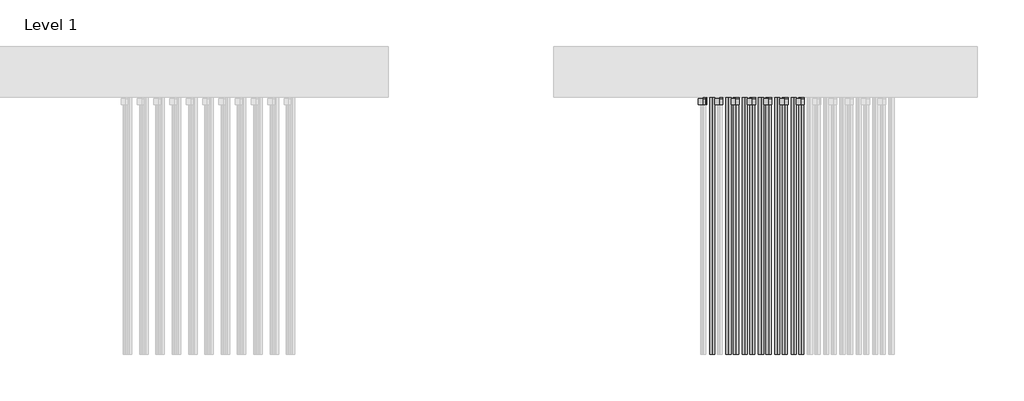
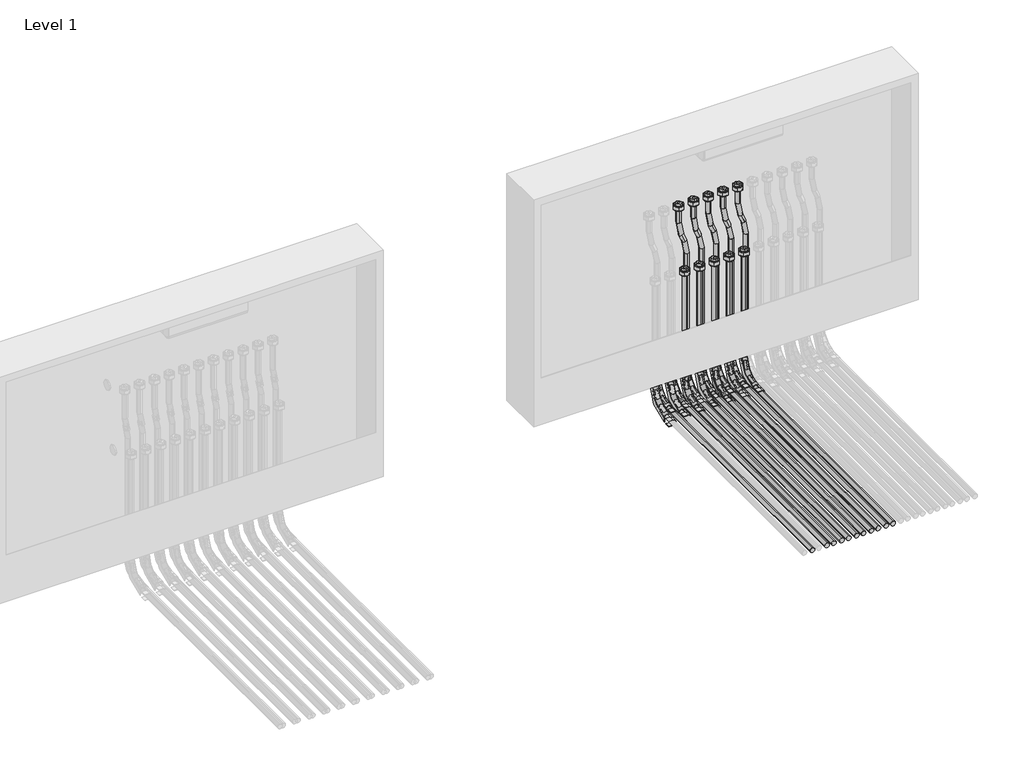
# One storey, part 14 of 15: 44 pipe fittings, 31 pipe segments.
"""IFC4 building model written with IfcOpenShell, lengths in millimetres."""

from ifc_helpers import new_model, si_unit, point, frame, frame_2d, origin, place, context, project, spatial, circle_curve, trimmed, segment, composite_curve, outline, extrude, transform, mapped, element, save
from components import pipe_fitting_b05a7e06, pipe_fitting_27357a6d, pipe_fitting_daada113, pipe_fitting_3e503640

model = new_model("IFC4")

# Units and contexts
model_context = context("Model", 3, world=origin())
ifc_project = project(units=[si_unit("LENGTHUNIT", "METRE", prefix="MILLI")], contexts=[model_context])

# Site, building, storey
site = spatial("IfcSite", under=ifc_project)
building = spatial("IfcBuilding", under=site)
storey = spatial("IfcBuildingStorey", under=building, Name="Level 1", Elevation=0.0)

# Pipe fittings
placement = place(None, origin())
pipe_fitting_shape = pipe_fitting_b05a7e06(model_context)
element("IfcPipeFitting", 1, ObjectType="USYSTEMS_УгловойФиксатор_Multi : Угловой фиксатор", at=placement, inside=storey, context=model_context, shape_type="MappedRepresentation", body=[
    mapped(pipe_fitting_shape, transform((16675.5332377, 3819.7850993, -114.3211479), x_axis=(0.0, 0.0, -1.0), y_axis=(0.0, -1.0, 0.0), z_axis=(-1.0, 0.0, 0.0))),
])
element("IfcPipeFitting", 2, ObjectType="USYSTEMS_УгловойФиксатор_Multi : Угловой фиксатор", at=placement, inside=storey, context=model_context, shape_type="MappedRepresentation", body=[
    mapped(pipe_fitting_shape, transform((16725.5332377, 3819.7850993, -114.3211479), x_axis=(0.0, 0.0, -1.0), y_axis=(0.0, -1.0, 0.0), z_axis=(-1.0, 0.0, 0.0))),
])
element("IfcPipeFitting", 3, ObjectType="USYSTEMS_УгловойФиксатор_Multi : Угловой фиксатор", at=placement, inside=storey, context=model_context, shape_type="MappedRepresentation", body=[
    mapped(pipe_fitting_shape, transform((16702.5432596, 3855.7846392, -114.3211479), x_axis=(0.0, 0.0, -1.0), y_axis=(0.0, -1.0, 0.0), z_axis=(-1.0, 0.0, 0.0))),
])
element("IfcPipeFitting", 4, ObjectType="USYSTEMS_УгловойФиксатор_Multi : Угловой фиксатор", at=placement, inside=storey, context=model_context, shape_type="MappedRepresentation", body=[
    mapped(pipe_fitting_shape, transform((16752.5432596, 3855.7846392, -114.3211479), x_axis=(0.0, 0.0, -1.0), y_axis=(0.0, -1.0, 0.0), z_axis=(-1.0, 0.0, 0.0))),
])
element("IfcPipeFitting", 5, ObjectType="USYSTEMS_УгловойФиксатор_Multi : Угловой фиксатор", at=placement, inside=storey, context=model_context, shape_type="MappedRepresentation", body=[
    mapped(pipe_fitting_shape, transform((16775.5332377, 3819.7850993, -114.3211479), x_axis=(0.0, 0.0, -1.0), y_axis=(0.0, -1.0, 0.0), z_axis=(-1.0, 0.0, 0.0))),
])
element("IfcPipeFitting", 6, ObjectType="USYSTEMS_УгловойФиксатор_Multi : Угловой фиксатор", at=placement, inside=storey, context=model_context, shape_type="MappedRepresentation", body=[
    mapped(pipe_fitting_shape, transform((16802.5432596, 3855.7849613, -114.3211479), x_axis=(0.0, 0.0, -1.0), y_axis=(0.0, -1.0, 0.0), z_axis=(-1.0, 0.0, 0.0))),
])
element("IfcPipeFitting", 7, ObjectType="USYSTEMS_УгловойФиксатор_Multi : Угловой фиксатор", at=placement, inside=storey, context=model_context, shape_type="MappedRepresentation", body=[
    mapped(pipe_fitting_shape, transform((16825.5332377, 3819.7850993, -114.3211479), x_axis=(0.0, 0.0, -1.0), y_axis=(0.0, -1.0, 0.0), z_axis=(-1.0, 0.0, 0.0))),
])
element("IfcPipeFitting", 8, ObjectType="USYSTEMS_УгловойФиксатор_Multi : Угловой фиксатор", at=placement, inside=storey, context=model_context, shape_type="MappedRepresentation", body=[
    mapped(pipe_fitting_shape, transform((16852.5432596, 3855.7849613, -114.3211479), x_axis=(0.0, 0.0, -1.0), y_axis=(0.0, -1.0, 0.0), z_axis=(-1.0, 0.0, 0.0))),
])
element("IfcPipeFitting", 9, ObjectType="USYSTEMS_УгловойФиксатор_Multi : Угловой фиксатор", at=placement, inside=storey, context=model_context, shape_type="MappedRepresentation", body=[
    mapped(pipe_fitting_shape, transform((16875.5332377, 3819.7850993, -114.3211479), x_axis=(0.0, 0.0, -1.0), y_axis=(0.0, -1.0, 0.0), z_axis=(-1.0, 0.0, 0.0))),
])
element("IfcPipeFitting", 10, ObjectType="USYSTEMS_УгловойФиксатор_Multi : Угловой фиксатор", at=placement, inside=storey, context=model_context, shape_type="MappedRepresentation", body=[
    mapped(pipe_fitting_shape, transform((16902.5432596, 3855.7846392, -114.3211479), x_axis=(0.0, 0.0, -1.0), y_axis=(0.0, -1.0, 0.0), z_axis=(-1.0, 0.0, 0.0))),
])
element("IfcPipeFitting", 11, ObjectType="USYSTEMS_УгловойФиксатор_Multi : Угловой фиксатор", at=placement, inside=storey, context=model_context, shape_type="MappedRepresentation", body=[
    mapped(pipe_fitting_shape, transform((16925.5332377, 3819.7850993, -114.3211479), x_axis=(0.0, 0.0, -1.0), y_axis=(0.0, -1.0, 0.0), z_axis=(-1.0, 0.0, 0.0))),
])
element("IfcPipeFitting", 12, ObjectType="USYSTEMS_УгловойФиксатор_Multi : Угловой фиксатор", at=placement, inside=storey, context=model_context, shape_type="MappedRepresentation", body=[
    mapped(pipe_fitting_shape, transform((16952.5432596, 3855.7849613, -114.3211479), x_axis=(0.0, 0.0, -1.0), y_axis=(0.0, -1.0, 0.0), z_axis=(-1.0, 0.0, 0.0))),
])
element("IfcPipeFitting", 13, ObjectType="USYSTEMS_УгловойФиксатор_Multi : Угловой фиксатор", at=placement, inside=storey, context=model_context, shape_type="MappedRepresentation", body=[
    mapped(pipe_fitting_shape, transform((16975.5332377, 3819.7850993, -114.3211479), x_axis=(0.0, 0.0, -1.0), y_axis=(0.0, -1.0, 0.0), z_axis=(-1.0, 0.0, 0.0))),
])
pipe_fitting_2_shape = pipe_fitting_27357a6d(model_context)
element("IfcPipeFitting", 14, ObjectType="USYSTEMS_Штуцер с внутренней резьбой_FlexX_PEX : 16x2,0 x 3/4\" ВР Евроконус", at=placement, inside=storey, context=model_context, shape_type="MappedRepresentation", body=[
    mapped(pipe_fitting_2_shape, transform((16775.5332377, 3819.7850993, 328.3084133), x_axis=(0.0, 0.0, 1.0), y_axis=(0.0, 1.0, 0.0), z_axis=(-1.0, 0.0, 0.0))),
])
element("IfcPipeFitting", 15, ObjectType="USYSTEMS_Штуцер с внутренней резьбой_FlexX_PEX : 16x2,0 x 3/4\" ВР Евроконус", at=placement, inside=storey, context=model_context, shape_type="MappedRepresentation", body=[
    mapped(pipe_fitting_2_shape, transform((16775.5332377, 3855.7850993, 538.3084133), x_axis=(0.0, 0.0, 1.0), y_axis=(0.0, 1.0, 0.0), z_axis=(-1.0, 0.0, 0.0))),
])
element("IfcPipeFitting", 16, ObjectType="USYSTEMS_Штуцер с внутренней резьбой_FlexX_PEX : 16x2,0 x 3/4\" ВР Евроконус", at=placement, inside=storey, context=model_context, shape_type="MappedRepresentation", body=[
    mapped(pipe_fitting_2_shape, transform((16825.5332377, 3819.7850993, 328.3084133), x_axis=(0.0, 0.0, 1.0), y_axis=(0.0, 1.0, 0.0), z_axis=(-1.0, 0.0, 0.0))),
])
element("IfcPipeFitting", 17, ObjectType="USYSTEMS_Штуцер с внутренней резьбой_FlexX_PEX : 16x2,0 x 3/4\" ВР Евроконус", at=placement, inside=storey, context=model_context, shape_type="MappedRepresentation", body=[
    mapped(pipe_fitting_2_shape, transform((16825.5332377, 3855.7850993, 538.3084133), x_axis=(0.0, 0.0, 1.0), y_axis=(0.0, 1.0, 0.0), z_axis=(-1.0, 0.0, 0.0))),
])
element("IfcPipeFitting", 18, ObjectType="USYSTEMS_Штуцер с внутренней резьбой_FlexX_PEX : 16x2,0 x 3/4\" ВР Евроконус", at=placement, inside=storey, context=model_context, shape_type="MappedRepresentation", body=[
    mapped(pipe_fitting_2_shape, transform((16875.5332377, 3819.7850993, 328.3084133), x_axis=(0.0, 0.0, 1.0), y_axis=(0.0, 1.0, 0.0), z_axis=(-1.0, 0.0, 0.0))),
])
element("IfcPipeFitting", 19, ObjectType="USYSTEMS_Штуцер с внутренней резьбой_FlexX_PEX : 16x2,0 x 3/4\" ВР Евроконус", at=placement, inside=storey, context=model_context, shape_type="MappedRepresentation", body=[
    mapped(pipe_fitting_2_shape, transform((16875.5332377, 3855.7850993, 538.3084133), x_axis=(0.0, 0.0, 1.0), y_axis=(0.0, 1.0, 0.0), z_axis=(-1.0, 0.0, 0.0))),
])
element("IfcPipeFitting", 20, ObjectType="USYSTEMS_Штуцер с внутренней резьбой_FlexX_PEX : 16x2,0 x 3/4\" ВР Евроконус", at=placement, inside=storey, context=model_context, shape_type="MappedRepresentation", body=[
    mapped(pipe_fitting_2_shape, transform((16925.5332377, 3819.7850993, 328.3084133), x_axis=(0.0, 0.0, 1.0), y_axis=(0.0, 1.0, 0.0), z_axis=(-1.0, 0.0, 0.0))),
])
element("IfcPipeFitting", 21, ObjectType="USYSTEMS_Штуцер с внутренней резьбой_FlexX_PEX : 16x2,0 x 3/4\" ВР Евроконус", at=placement, inside=storey, context=model_context, shape_type="MappedRepresentation", body=[
    mapped(pipe_fitting_2_shape, transform((16925.5332377, 3855.7850993, 538.3084133), x_axis=(0.0, 0.0, 1.0), y_axis=(0.0, 1.0, 0.0), z_axis=(-1.0, 0.0, 0.0))),
])
element("IfcPipeFitting", 22, ObjectType="USYSTEMS_Штуцер с внутренней резьбой_FlexX_PEX : 16x2,0 x 3/4\" ВР Евроконус", at=placement, inside=storey, context=model_context, shape_type="MappedRepresentation", body=[
    mapped(pipe_fitting_2_shape, transform((16975.5332377, 3819.7850993, 328.3084133), x_axis=(0.0, 0.0, 1.0), y_axis=(0.0, 1.0, 0.0), z_axis=(-1.0, 0.0, 0.0))),
])
element("IfcPipeFitting", 23, ObjectType="USYSTEMS_Штуцер с внутренней резьбой_FlexX_PEX : 16x2,0 x 3/4\" ВР Евроконус", at=placement, inside=storey, context=model_context, shape_type="MappedRepresentation", body=[
    mapped(pipe_fitting_2_shape, transform((16975.5332377, 3855.7850993, 538.3084133), x_axis=(0.0, 0.0, 1.0), y_axis=(0.0, 1.0, 0.0), z_axis=(-1.0, 0.0, 0.0))),
])
pipe_fitting_3_shape = pipe_fitting_daada113(model_context)
element("IfcPipeFitting", 24, ObjectType="USYSTEMS_Гнутая труба_Radi Pipe : PN 6 в бухтах", at=placement, inside=storey, context=model_context, shape_type="MappedRepresentation", body=[
    mapped(pipe_fitting_3_shape, transform((16775.5332377, 3855.7850993, 458.6280399), x_axis=(0.0, 0.0, -1.0), y_axis=(1.0, 0.0, 0.0), z_axis=(0.0, -1.0, 0.0))),
])
element("IfcPipeFitting", 25, ObjectType="USYSTEMS_Гнутая труба_Radi Pipe : PN 6 в бухтах", at=placement, inside=storey, context=model_context, shape_type="MappedRepresentation", body=[
    mapped(pipe_fitting_3_shape, transform((16802.5432596, 3855.7849613, 388.2645272), x_axis=(0.3583679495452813, 0.0, -0.9335804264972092), y_axis=(-0.9335804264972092, 0.0, -0.3583679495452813), z_axis=(0.0, 1.0, 0.0))),
])
element("IfcPipeFitting", 26, ObjectType="USYSTEMS_Гнутая труба_Radi Pipe : PN 6 в бухтах", at=placement, inside=storey, context=model_context, shape_type="MappedRepresentation", body=[
    mapped(pipe_fitting_3_shape, transform((16825.5332377, 3855.7850993, 458.6280399), x_axis=(0.0, 0.0, -1.0), y_axis=(1.0, 0.0, 0.0), z_axis=(0.0, -1.0, 0.0))),
])
element("IfcPipeFitting", 27, ObjectType="USYSTEMS_Гнутая труба_Radi Pipe : PN 6 в бухтах", at=placement, inside=storey, context=model_context, shape_type="MappedRepresentation", body=[
    mapped(pipe_fitting_3_shape, transform((16852.5432596, 3855.7849613, 388.2645272), x_axis=(0.3583679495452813, 0.0, -0.9335804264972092), y_axis=(-0.9335804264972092, 0.0, -0.3583679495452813), z_axis=(0.0, 1.0, 0.0))),
])
element("IfcPipeFitting", 28, ObjectType="USYSTEMS_Гнутая труба_Radi Pipe : PN 6 в бухтах", at=placement, inside=storey, context=model_context, shape_type="MappedRepresentation", body=[
    mapped(pipe_fitting_3_shape, transform((16875.5332377, 3855.7850993, 458.6280399), x_axis=(0.0, 0.0, -1.0), y_axis=(1.0, 0.0, 0.0), z_axis=(0.0, -1.0, 0.0))),
])
element("IfcPipeFitting", 29, ObjectType="USYSTEMS_Гнутая труба_Radi Pipe : PN 6 в бухтах", at=placement, inside=storey, context=model_context, shape_type="MappedRepresentation", body=[
    mapped(pipe_fitting_3_shape, transform((16902.5432596, 3855.7846392, 388.2645272), x_axis=(0.3583679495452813, 0.0, -0.9335804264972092), y_axis=(-0.9335804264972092, 0.0, -0.3583679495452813), z_axis=(0.0, 1.0, 0.0))),
])
element("IfcPipeFitting", 30, ObjectType="USYSTEMS_Гнутая труба_Radi Pipe : PN 6 в бухтах", at=placement, inside=storey, context=model_context, shape_type="MappedRepresentation", body=[
    mapped(pipe_fitting_3_shape, transform((16925.5332377, 3855.7850993, 458.6280399), x_axis=(0.0, 0.0, -1.0), y_axis=(1.0, 0.0, 0.0), z_axis=(0.0, -1.0, 0.0))),
])
element("IfcPipeFitting", 31, ObjectType="USYSTEMS_Гнутая труба_Radi Pipe : PN 6 в бухтах", at=placement, inside=storey, context=model_context, shape_type="MappedRepresentation", body=[
    mapped(pipe_fitting_3_shape, transform((16952.5432596, 3855.7849613, 388.2645272), x_axis=(0.3583679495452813, 0.0, -0.9335804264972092), y_axis=(-0.9335804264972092, 0.0, -0.3583679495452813), z_axis=(0.0, 1.0, 0.0))),
])
element("IfcPipeFitting", 32, ObjectType="USYSTEMS_Гнутая труба_Radi Pipe : PN 6 в бухтах", at=placement, inside=storey, context=model_context, shape_type="MappedRepresentation", body=[
    mapped(pipe_fitting_3_shape, transform((16975.5332377, 3855.7850993, 458.6280399), x_axis=(0.0, 0.0, -1.0), y_axis=(1.0, 0.0, 0.0), z_axis=(0.0, -1.0, 0.0))),
])
element("IfcPipeFitting", 33, ObjectType="USYSTEMS_Гнутая труба_Radi Pipe : PN 6 в бухтах", at=placement, inside=storey, context=model_context, shape_type="MappedRepresentation", body=[
    mapped(pipe_fitting_3_shape, transform((17002.5432596, 3855.7846392, 388.2645272), x_axis=(0.3583679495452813, 0.0, -0.9335804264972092), y_axis=(-0.9335804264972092, 0.0, -0.3583679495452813), z_axis=(0.0, 1.0, 0.0))),
])
pipe_fitting_4_shape = pipe_fitting_3e503640(model_context)
element("IfcPipeFitting", 34, ObjectType="USYSTEMS_Гнутая труба_Radi Pipe : PN 6 в бухтах_С фиксатором", at=placement, inside=storey, context=model_context, shape_type="MappedRepresentation", body=[
    mapped(pipe_fitting_4_shape, transform((16702.5432596, 3855.7846392, -114.3211479), x_axis=(0.0, 0.0, -1.0), y_axis=(0.0, -1.0, 0.0), z_axis=(-1.0, 0.0, 0.0))),
])
element("IfcPipeFitting", 35, ObjectType="USYSTEMS_Гнутая труба_Radi Pipe : PN 6 в бухтах_С фиксатором", at=placement, inside=storey, context=model_context, shape_type="MappedRepresentation", body=[
    mapped(pipe_fitting_4_shape, transform((16752.5432596, 3855.7846392, -114.3211479), x_axis=(0.0, 0.0, -1.0), y_axis=(0.0, -1.0, 0.0), z_axis=(-1.0, 0.0, 0.0))),
])
element("IfcPipeFitting", 36, ObjectType="USYSTEMS_Гнутая труба_Radi Pipe : PN 6 в бухтах_С фиксатором", at=placement, inside=storey, context=model_context, shape_type="MappedRepresentation", body=[
    mapped(pipe_fitting_4_shape, transform((16775.5332377, 3819.7850993, -114.3211479), x_axis=(0.0, 0.0, -1.0), y_axis=(0.0, -1.0, 0.0), z_axis=(-1.0, 0.0, 0.0))),
])
element("IfcPipeFitting", 37, ObjectType="USYSTEMS_Гнутая труба_Radi Pipe : PN 6 в бухтах_С фиксатором", at=placement, inside=storey, context=model_context, shape_type="MappedRepresentation", body=[
    mapped(pipe_fitting_4_shape, transform((16802.5432596, 3855.7849613, -114.3211479), x_axis=(0.0, 0.0, -1.0), y_axis=(0.0, -1.0, 0.0), z_axis=(-1.0, 0.0, 0.0))),
])
element("IfcPipeFitting", 38, ObjectType="USYSTEMS_Гнутая труба_Radi Pipe : PN 6 в бухтах_С фиксатором", at=placement, inside=storey, context=model_context, shape_type="MappedRepresentation", body=[
    mapped(pipe_fitting_4_shape, transform((16825.5332377, 3819.7850993, -114.3211479), x_axis=(0.0, 0.0, -1.0), y_axis=(0.0, -1.0, 0.0), z_axis=(-1.0, 0.0, 0.0))),
])
element("IfcPipeFitting", 39, ObjectType="USYSTEMS_Гнутая труба_Radi Pipe : PN 6 в бухтах_С фиксатором", at=placement, inside=storey, context=model_context, shape_type="MappedRepresentation", body=[
    mapped(pipe_fitting_4_shape, transform((16852.5432596, 3855.7849613, -114.3211479), x_axis=(0.0, 0.0, -1.0), y_axis=(0.0, -1.0, 0.0), z_axis=(-1.0, 0.0, 0.0))),
])
element("IfcPipeFitting", 40, ObjectType="USYSTEMS_Гнутая труба_Radi Pipe : PN 6 в бухтах_С фиксатором", at=placement, inside=storey, context=model_context, shape_type="MappedRepresentation", body=[
    mapped(pipe_fitting_4_shape, transform((16875.5332377, 3819.7850993, -114.3211479), x_axis=(0.0, 0.0, -1.0), y_axis=(0.0, -1.0, 0.0), z_axis=(-1.0, 0.0, 0.0))),
])
element("IfcPipeFitting", 41, ObjectType="USYSTEMS_Гнутая труба_Radi Pipe : PN 6 в бухтах_С фиксатором", at=placement, inside=storey, context=model_context, shape_type="MappedRepresentation", body=[
    mapped(pipe_fitting_4_shape, transform((16902.5432596, 3855.7846392, -114.3211479), x_axis=(0.0, 0.0, -1.0), y_axis=(0.0, -1.0, 0.0), z_axis=(-1.0, 0.0, 0.0))),
])
element("IfcPipeFitting", 42, ObjectType="USYSTEMS_Гнутая труба_Radi Pipe : PN 6 в бухтах_С фиксатором", at=placement, inside=storey, context=model_context, shape_type="MappedRepresentation", body=[
    mapped(pipe_fitting_4_shape, transform((16925.5332377, 3819.7850993, -114.3211479), x_axis=(0.0, 0.0, -1.0), y_axis=(0.0, -1.0, 0.0), z_axis=(-1.0, 0.0, 0.0))),
])
element("IfcPipeFitting", 43, ObjectType="USYSTEMS_Гнутая труба_Radi Pipe : PN 6 в бухтах_С фиксатором", at=placement, inside=storey, context=model_context, shape_type="MappedRepresentation", body=[
    mapped(pipe_fitting_4_shape, transform((16952.5432596, 3855.7849613, -114.3211479), x_axis=(0.0, 0.0, -1.0), y_axis=(0.0, -1.0, 0.0), z_axis=(-1.0, 0.0, 0.0))),
])
element("IfcPipeFitting", 44, ObjectType="USYSTEMS_Гнутая труба_Radi Pipe : PN 6 в бухтах_С фиксатором", at=placement, inside=storey, context=model_context, shape_type="MappedRepresentation", body=[
    mapped(pipe_fitting_4_shape, transform((16975.5332377, 3819.7850993, -114.3211479), x_axis=(0.0, 0.0, -1.0), y_axis=(0.0, -1.0, 0.0), z_axis=(-1.0, 0.0, 0.0))),
])

# Pipe segments
element("IfcPipeSegment", 45, ObjectType="USYSTEMS труба Radi Pipe белая PN6", at=placement, inside=storey, context=model_context, shape_type="SweptSolid", body=[
    extrude(outline(composite_curve([segment(trimmed(circle_curve(frame_2d((-114.3211479, 16702.5432596)), 8.0), [point((-114.3211479, 16694.5432596))], [point((-122.3211479, 16702.5432596))], False, "CARTESIAN"), True, "CONTINUOUS"), segment(trimmed(circle_curve(frame_2d((-114.3211479, 16702.5432596)), 8.0), [point((-122.3211479, 16702.5432596))], [point((-114.3211479, 16710.5432596))], False, "CARTESIAN"), True, "CONTINUOUS"), segment(trimmed(circle_curve(frame_2d((-114.3211479, 16702.5432596)), 8.0), [point((-114.3211479, 16710.5432596))], [point((-106.3211479, 16702.5432596))], False, "CARTESIAN"), True, "CONTINUOUS"), segment(trimmed(circle_curve(frame_2d((-114.3211479, 16702.5432596)), 8.0), [point((-106.3211479, 16702.5432596))], [point((-114.3211479, 16694.5432596))], False, "CARTESIAN"), True, "CONTINUOUS")], self_intersect=False)), frame((0.0, 2946.5844543, 0.0), z_axis=(0.0, 1.0, 0.0), x_axis=(0.0, 0.0, 1.0)), (0.0, 0.0, 1.0), 838.2001849),
])
element("IfcPipeSegment", 46, ObjectType="USYSTEMS труба Radi Pipe белая PN6", at=placement, inside=storey, context=model_context, shape_type="SweptSolid", body=[
    extrude(outline(composite_curve([segment(trimmed(circle_curve(frame_2d((-114.3211479, 16752.5432596)), 8.0), [point((-114.3211479, 16744.5432596))], [point((-122.3211479, 16752.5432596))], False, "CARTESIAN"), True, "CONTINUOUS"), segment(trimmed(circle_curve(frame_2d((-114.3211479, 16752.5432596)), 8.0), [point((-122.3211479, 16752.5432596))], [point((-114.3211479, 16760.5432596))], False, "CARTESIAN"), True, "CONTINUOUS"), segment(trimmed(circle_curve(frame_2d((-114.3211479, 16752.5432596)), 8.0), [point((-114.3211479, 16760.5432596))], [point((-106.3211479, 16752.5432596))], False, "CARTESIAN"), True, "CONTINUOUS"), segment(trimmed(circle_curve(frame_2d((-114.3211479, 16752.5432596)), 8.0), [point((-106.3211479, 16752.5432596))], [point((-114.3211479, 16744.5432596))], False, "CARTESIAN"), True, "CONTINUOUS")], self_intersect=False)), frame((0.0, 2946.5844543, 0.0), z_axis=(0.0, 1.0, 0.0), x_axis=(0.0, 0.0, 1.0)), (0.0, 0.0, 1.0), 838.2001849),
])
element("IfcPipeSegment", 47, ObjectType="USYSTEMS труба Radi Pipe белая PN6", at=placement, inside=storey, context=model_context, shape_type="SweptSolid", body=[
    extrude(outline(composite_curve([segment(trimmed(circle_curve(frame_2d((16775.5332377, 3819.7850993)), 8.0), [point((16783.5332377, 3819.7850993))], [point((16775.5332377, 3811.7850993))], False, "CARTESIAN"), True, "CONTINUOUS"), segment(trimmed(circle_curve(frame_2d((16775.5332377, 3819.7850993)), 8.0), [point((16775.5332377, 3811.7850993))], [point((16767.5332377, 3819.7850993))], False, "CARTESIAN"), True, "CONTINUOUS"), segment(trimmed(circle_curve(frame_2d((16775.5332377, 3819.7850993)), 8.0), [point((16767.5332377, 3819.7850993))], [point((16775.5332377, 3827.7850993))], False, "CARTESIAN"), True, "CONTINUOUS"), segment(trimmed(circle_curve(frame_2d((16775.5332377, 3819.7850993)), 8.0), [point((16775.5332377, 3827.7850993))], [point((16783.5332377, 3819.7850993))], False, "CARTESIAN"), True, "CONTINUOUS")], self_intersect=False)), frame((0.0, 0.0, -43.3211479), z_axis=(0.0, 0.0, 1.0), x_axis=(1.0, 0.0, 0.0)), (0.0, 0.0, 1.0), 370.6295612),
])
element("IfcPipeSegment", 48, ObjectType="USYSTEMS труба Radi Pipe белая PN6", at=placement, inside=storey, context=model_context, shape_type="SweptSolid", body=[
    extrude(outline(composite_curve([segment(trimmed(circle_curve(frame_2d((16775.5332377, 3855.7850993)), 8.0), [point((16783.5332377, 3855.7850993))], [point((16775.5332377, 3847.7850993))], False, "CARTESIAN"), True, "CONTINUOUS"), segment(trimmed(circle_curve(frame_2d((16775.5332377, 3855.7850993)), 8.0), [point((16775.5332377, 3847.7850993))], [point((16767.5332377, 3855.7850993))], False, "CARTESIAN"), True, "CONTINUOUS"), segment(trimmed(circle_curve(frame_2d((16775.5332377, 3855.7850993)), 8.0), [point((16767.5332377, 3855.7850993))], [point((16775.5332377, 3863.7850993))], False, "CARTESIAN"), True, "CONTINUOUS"), segment(trimmed(circle_curve(frame_2d((16775.5332377, 3855.7850993)), 8.0), [point((16775.5332377, 3863.7850993))], [point((16783.5332377, 3855.7850993))], False, "CARTESIAN"), True, "CONTINUOUS")], self_intersect=False)), frame((0.0, 0.0, 482.3514377), z_axis=(0.0, 0.0, 1.0), x_axis=(1.0, 0.0, 0.0)), (0.0, 0.0, 1.0), 54.9569756),
])
element("IfcPipeSegment", 49, ObjectType="USYSTEMS труба Radi Pipe белая PN6", at=placement, inside=storey, context=model_context, shape_type="SweptSolid", body=[
    extrude(outline(composite_curve([segment(trimmed(circle_curve(frame_2d((0.0, -8.0)), 8.0), [point((-0.0001182, -16.0))], [point((-8.0, -7.9998818))], False, "CARTESIAN"), True, "CONTINUOUS"), segment(trimmed(circle_curve(frame_2d((0.0, -8.0)), 8.0), [point((-8.0, -7.9998818))], [point((0.0001182, 0.0))], False, "CARTESIAN"), True, "CONTINUOUS"), segment(trimmed(circle_curve(frame_2d((0.0, -8.0)), 8.0), [point((0.0001182, 0.0))], [point((8.0, -8.0001183))], False, "CARTESIAN"), True, "CONTINUOUS"), segment(trimmed(circle_curve(frame_2d((0.0, -8.0)), 8.0), [point((8.0, -8.0001183))], [point((-0.0001182, -16.0))], False, "CARTESIAN"), True, "CONTINUOUS")], self_intersect=False)), frame((16794.0415542, 3863.7849613, 410.4121847), z_axis=(-0.35836794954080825, 4.943680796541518e-06, 0.9335804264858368), x_axis=(0.9335804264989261, 1.897701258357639e-06, 0.3583679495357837)), (0.0, 0.0, 1.0), 27.9227289),
])
element("IfcPipeSegment", 50, ObjectType="USYSTEMS труба Radi Pipe белая PN6", at=placement, inside=storey, context=model_context, shape_type="SweptSolid", body=[
    extrude(outline(composite_curve([segment(trimmed(circle_curve(frame_2d((16802.5432596, 3855.7849613)), 8.0), [point((16810.5432596, 3855.7849613))], [point((16802.5432596, 3847.7849613))], False, "CARTESIAN"), True, "CONTINUOUS"), segment(trimmed(circle_curve(frame_2d((16802.5432596, 3855.7849613)), 8.0), [point((16802.5432596, 3847.7849613))], [point((16794.5432596, 3855.7849613))], False, "CARTESIAN"), True, "CONTINUOUS"), segment(trimmed(circle_curve(frame_2d((16802.5432596, 3855.7849613)), 8.0), [point((16794.5432596, 3855.7849613))], [point((16802.5432596, 3863.7849613))], False, "CARTESIAN"), True, "CONTINUOUS"), segment(trimmed(circle_curve(frame_2d((16802.5432596, 3855.7849613)), 8.0), [point((16802.5432596, 3863.7849613))], [point((16810.5432596, 3855.7849613))], False, "CARTESIAN"), True, "CONTINUOUS")], self_intersect=False)), frame((0.0, 0.0, -43.3211479), z_axis=(0.0, 0.0, 1.0), x_axis=(1.0, 0.0, 0.0)), (0.0, 0.0, 1.0), 407.8622774),
])
element("IfcPipeSegment", 51, ObjectType="USYSTEMS труба Radi Pipe белая PN6", at=placement, inside=storey, context=model_context, shape_type="SweptSolid", body=[
    extrude(outline(composite_curve([segment(trimmed(circle_curve(frame_2d((-114.3211479, 16775.5332377)), 8.0), [point((-114.3211479, 16767.5332377))], [point((-122.3211479, 16775.5332377))], False, "CARTESIAN"), True, "CONTINUOUS"), segment(trimmed(circle_curve(frame_2d((-114.3211479, 16775.5332377)), 8.0), [point((-122.3211479, 16775.5332377))], [point((-114.3211479, 16783.5332377))], False, "CARTESIAN"), True, "CONTINUOUS"), segment(trimmed(circle_curve(frame_2d((-114.3211479, 16775.5332377)), 8.0), [point((-114.3211479, 16783.5332377))], [point((-106.3211479, 16775.5332377))], False, "CARTESIAN"), True, "CONTINUOUS"), segment(trimmed(circle_curve(frame_2d((-114.3211479, 16775.5332377)), 8.0), [point((-106.3211479, 16775.5332377))], [point((-114.3211479, 16767.5332377))], False, "CARTESIAN"), True, "CONTINUOUS")], self_intersect=False)), frame((0.0, 2946.5844543, 0.0), z_axis=(0.0, 1.0, 0.0), x_axis=(0.0, 0.0, 1.0)), (0.0, 0.0, 1.0), 802.200645),
])
element("IfcPipeSegment", 52, ObjectType="USYSTEMS труба Radi Pipe белая PN6", at=placement, inside=storey, context=model_context, shape_type="SweptSolid", body=[
    extrude(outline(composite_curve([segment(trimmed(circle_curve(frame_2d((-114.3211479, 16802.5432596)), 8.0), [point((-114.3211479, 16794.5432596))], [point((-122.3211479, 16802.5432596))], False, "CARTESIAN"), True, "CONTINUOUS"), segment(trimmed(circle_curve(frame_2d((-114.3211479, 16802.5432596)), 8.0), [point((-122.3211479, 16802.5432596))], [point((-114.3211479, 16810.5432596))], False, "CARTESIAN"), True, "CONTINUOUS"), segment(trimmed(circle_curve(frame_2d((-114.3211479, 16802.5432596)), 8.0), [point((-114.3211479, 16810.5432596))], [point((-106.3211479, 16802.5432596))], False, "CARTESIAN"), True, "CONTINUOUS"), segment(trimmed(circle_curve(frame_2d((-114.3211479, 16802.5432596)), 8.0), [point((-106.3211479, 16802.5432596))], [point((-114.3211479, 16794.5432596))], False, "CARTESIAN"), True, "CONTINUOUS")], self_intersect=False)), frame((0.0, 2946.5844543, 0.0), z_axis=(0.0, 1.0, 0.0), x_axis=(0.0, 0.0, 1.0)), (0.0, 0.0, 1.0), 838.200507),
])
element("IfcPipeSegment", 53, ObjectType="USYSTEMS труба Radi Pipe белая PN6", at=placement, inside=storey, context=model_context, shape_type="SweptSolid", body=[
    extrude(outline(composite_curve([segment(trimmed(circle_curve(frame_2d((16825.5332377, 3819.7850993)), 8.0), [point((16833.5332377, 3819.7850993))], [point((16825.5332377, 3811.7850993))], False, "CARTESIAN"), True, "CONTINUOUS"), segment(trimmed(circle_curve(frame_2d((16825.5332377, 3819.7850993)), 8.0), [point((16825.5332377, 3811.7850993))], [point((16817.5332377, 3819.7850993))], False, "CARTESIAN"), True, "CONTINUOUS"), segment(trimmed(circle_curve(frame_2d((16825.5332377, 3819.7850993)), 8.0), [point((16817.5332377, 3819.7850993))], [point((16825.5332377, 3827.7850993))], False, "CARTESIAN"), True, "CONTINUOUS"), segment(trimmed(circle_curve(frame_2d((16825.5332377, 3819.7850993)), 8.0), [point((16825.5332377, 3827.7850993))], [point((16833.5332377, 3819.7850993))], False, "CARTESIAN"), True, "CONTINUOUS")], self_intersect=False)), frame((0.0, 0.0, -43.3211479), z_axis=(0.0, 0.0, 1.0), x_axis=(1.0, 0.0, 0.0)), (0.0, 0.0, 1.0), 370.6295612),
])
element("IfcPipeSegment", 54, ObjectType="USYSTEMS труба Radi Pipe белая PN6", at=placement, inside=storey, context=model_context, shape_type="SweptSolid", body=[
    extrude(outline(composite_curve([segment(trimmed(circle_curve(frame_2d((16825.5332377, 3855.7850993)), 8.0), [point((16833.5332377, 3855.7850993))], [point((16825.5332377, 3847.7850993))], False, "CARTESIAN"), True, "CONTINUOUS"), segment(trimmed(circle_curve(frame_2d((16825.5332377, 3855.7850993)), 8.0), [point((16825.5332377, 3847.7850993))], [point((16817.5332377, 3855.7850993))], False, "CARTESIAN"), True, "CONTINUOUS"), segment(trimmed(circle_curve(frame_2d((16825.5332377, 3855.7850993)), 8.0), [point((16817.5332377, 3855.7850993))], [point((16825.5332377, 3863.7850993))], False, "CARTESIAN"), True, "CONTINUOUS"), segment(trimmed(circle_curve(frame_2d((16825.5332377, 3855.7850993)), 8.0), [point((16825.5332377, 3863.7850993))], [point((16833.5332377, 3855.7850993))], False, "CARTESIAN"), True, "CONTINUOUS")], self_intersect=False)), frame((0.0, 0.0, 482.3514377), z_axis=(0.0, 0.0, 1.0), x_axis=(1.0, 0.0, 0.0)), (0.0, 0.0, 1.0), 54.9569756),
])
element("IfcPipeSegment", 55, ObjectType="USYSTEMS труба Radi Pipe белая PN6", at=placement, inside=storey, context=model_context, shape_type="SweptSolid", body=[
    extrude(outline(composite_curve([segment(trimmed(circle_curve(frame_2d((0.0, -8.0)), 8.0), [point((-0.0001182, -16.0))], [point((-8.0, -7.9998818))], False, "CARTESIAN"), True, "CONTINUOUS"), segment(trimmed(circle_curve(frame_2d((0.0, -8.0)), 8.0), [point((-8.0, -7.9998818))], [point((0.0001182, 0.0))], False, "CARTESIAN"), True, "CONTINUOUS"), segment(trimmed(circle_curve(frame_2d((0.0, -8.0)), 8.0), [point((0.0001182, 0.0))], [point((8.0, -8.0001183))], False, "CARTESIAN"), True, "CONTINUOUS"), segment(trimmed(circle_curve(frame_2d((0.0, -8.0)), 8.0), [point((8.0, -8.0001183))], [point((-0.0001182, -16.0))], False, "CARTESIAN"), True, "CONTINUOUS")], self_intersect=False)), frame((16844.0415542, 3863.7849613, 410.4121847), z_axis=(-0.35836794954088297, 4.943680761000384e-06, 0.9335804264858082), x_axis=(0.9335804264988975, 1.897701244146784e-06, 0.35836794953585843)), (0.0, 0.0, 1.0), 27.9227289),
])
element("IfcPipeSegment", 56, ObjectType="USYSTEMS труба Radi Pipe белая PN6", at=placement, inside=storey, context=model_context, shape_type="SweptSolid", body=[
    extrude(outline(composite_curve([segment(trimmed(circle_curve(frame_2d((16852.5432596, 3855.7849613)), 8.0), [point((16860.5432596, 3855.7849613))], [point((16852.5432596, 3847.7849613))], False, "CARTESIAN"), True, "CONTINUOUS"), segment(trimmed(circle_curve(frame_2d((16852.5432596, 3855.7849613)), 8.0), [point((16852.5432596, 3847.7849613))], [point((16844.5432596, 3855.7849613))], False, "CARTESIAN"), True, "CONTINUOUS"), segment(trimmed(circle_curve(frame_2d((16852.5432596, 3855.7849613)), 8.0), [point((16844.5432596, 3855.7849613))], [point((16852.5432596, 3863.7849613))], False, "CARTESIAN"), True, "CONTINUOUS"), segment(trimmed(circle_curve(frame_2d((16852.5432596, 3855.7849613)), 8.0), [point((16852.5432596, 3863.7849613))], [point((16860.5432596, 3855.7849613))], False, "CARTESIAN"), True, "CONTINUOUS")], self_intersect=False)), frame((0.0, 0.0, -43.3211479), z_axis=(0.0, 0.0, 1.0), x_axis=(1.0, 0.0, 0.0)), (0.0, 0.0, 1.0), 407.8622774),
])
element("IfcPipeSegment", 57, ObjectType="USYSTEMS труба Radi Pipe белая PN6", at=placement, inside=storey, context=model_context, shape_type="SweptSolid", body=[
    extrude(outline(composite_curve([segment(trimmed(circle_curve(frame_2d((-114.3211479, 16825.5332377)), 8.0), [point((-114.3211479, 16817.5332377))], [point((-122.3211479, 16825.5332377))], False, "CARTESIAN"), True, "CONTINUOUS"), segment(trimmed(circle_curve(frame_2d((-114.3211479, 16825.5332377)), 8.0), [point((-122.3211479, 16825.5332377))], [point((-114.3211479, 16833.5332377))], False, "CARTESIAN"), True, "CONTINUOUS"), segment(trimmed(circle_curve(frame_2d((-114.3211479, 16825.5332377)), 8.0), [point((-114.3211479, 16833.5332377))], [point((-106.3211479, 16825.5332377))], False, "CARTESIAN"), True, "CONTINUOUS"), segment(trimmed(circle_curve(frame_2d((-114.3211479, 16825.5332377)), 8.0), [point((-106.3211479, 16825.5332377))], [point((-114.3211479, 16817.5332377))], False, "CARTESIAN"), True, "CONTINUOUS")], self_intersect=False)), frame((0.0, 2946.5844543, 0.0), z_axis=(0.0, 1.0, 0.0), x_axis=(0.0, 0.0, 1.0)), (0.0, 0.0, 1.0), 802.200645),
])
element("IfcPipeSegment", 58, ObjectType="USYSTEMS труба Radi Pipe белая PN6", at=placement, inside=storey, context=model_context, shape_type="SweptSolid", body=[
    extrude(outline(composite_curve([segment(trimmed(circle_curve(frame_2d((-114.3211479, 16852.5432596)), 8.0), [point((-114.3211479, 16844.5432596))], [point((-122.3211479, 16852.5432596))], False, "CARTESIAN"), True, "CONTINUOUS"), segment(trimmed(circle_curve(frame_2d((-114.3211479, 16852.5432596)), 8.0), [point((-122.3211479, 16852.5432596))], [point((-114.3211479, 16860.5432596))], False, "CARTESIAN"), True, "CONTINUOUS"), segment(trimmed(circle_curve(frame_2d((-114.3211479, 16852.5432596)), 8.0), [point((-114.3211479, 16860.5432596))], [point((-106.3211479, 16852.5432596))], False, "CARTESIAN"), True, "CONTINUOUS"), segment(trimmed(circle_curve(frame_2d((-114.3211479, 16852.5432596)), 8.0), [point((-106.3211479, 16852.5432596))], [point((-114.3211479, 16844.5432596))], False, "CARTESIAN"), True, "CONTINUOUS")], self_intersect=False)), frame((0.0, 2946.5844543, 0.0), z_axis=(0.0, 1.0, 0.0), x_axis=(0.0, 0.0, 1.0)), (0.0, 0.0, 1.0), 838.200507),
])
element("IfcPipeSegment", 59, ObjectType="USYSTEMS труба Radi Pipe белая PN6", at=placement, inside=storey, context=model_context, shape_type="SweptSolid", body=[
    extrude(outline(composite_curve([segment(trimmed(circle_curve(frame_2d((16875.5332377, 3819.7850993)), 8.0), [point((16883.5332377, 3819.7850993))], [point((16875.5332377, 3811.7850993))], False, "CARTESIAN"), True, "CONTINUOUS"), segment(trimmed(circle_curve(frame_2d((16875.5332377, 3819.7850993)), 8.0), [point((16875.5332377, 3811.7850993))], [point((16867.5332377, 3819.7850993))], False, "CARTESIAN"), True, "CONTINUOUS"), segment(trimmed(circle_curve(frame_2d((16875.5332377, 3819.7850993)), 8.0), [point((16867.5332377, 3819.7850993))], [point((16875.5332377, 3827.7850993))], False, "CARTESIAN"), True, "CONTINUOUS"), segment(trimmed(circle_curve(frame_2d((16875.5332377, 3819.7850993)), 8.0), [point((16875.5332377, 3827.7850993))], [point((16883.5332377, 3819.7850993))], False, "CARTESIAN"), True, "CONTINUOUS")], self_intersect=False)), frame((0.0, 0.0, -43.3211479), z_axis=(0.0, 0.0, 1.0), x_axis=(1.0, 0.0, 0.0)), (0.0, 0.0, 1.0), 370.6295612),
])
element("IfcPipeSegment", 60, ObjectType="USYSTEMS труба Radi Pipe белая PN6", at=placement, inside=storey, context=model_context, shape_type="SweptSolid", body=[
    extrude(outline(composite_curve([segment(trimmed(circle_curve(frame_2d((16875.5332377, 3855.7850993)), 8.0), [point((16883.5332377, 3855.7850993))], [point((16875.5332377, 3847.7850993))], False, "CARTESIAN"), True, "CONTINUOUS"), segment(trimmed(circle_curve(frame_2d((16875.5332377, 3855.7850993)), 8.0), [point((16875.5332377, 3847.7850993))], [point((16867.5332377, 3855.7850993))], False, "CARTESIAN"), True, "CONTINUOUS"), segment(trimmed(circle_curve(frame_2d((16875.5332377, 3855.7850993)), 8.0), [point((16867.5332377, 3855.7850993))], [point((16875.5332377, 3863.7850993))], False, "CARTESIAN"), True, "CONTINUOUS"), segment(trimmed(circle_curve(frame_2d((16875.5332377, 3855.7850993)), 8.0), [point((16875.5332377, 3863.7850993))], [point((16883.5332377, 3855.7850993))], False, "CARTESIAN"), True, "CONTINUOUS")], self_intersect=False)), frame((0.0, 0.0, 482.3514377), z_axis=(0.0, 0.0, 1.0), x_axis=(1.0, 0.0, 0.0)), (0.0, 0.0, 1.0), 54.9569756),
])
element("IfcPipeSegment", 61, ObjectType="USYSTEMS труба Radi Pipe белая PN6", at=placement, inside=storey, context=model_context, shape_type="SweptSolid", body=[
    extrude(outline(composite_curve([segment(trimmed(circle_curve(frame_2d((0.0, -8.0)), 8.0), [point((-0.0003941, -16.0))], [point((-8.0, -7.999606))], False, "CARTESIAN"), True, "CONTINUOUS"), segment(trimmed(circle_curve(frame_2d((0.0, -8.0)), 8.0), [point((-8.0, -7.999606))], [point((0.0003941, 0.0))], False, "CARTESIAN"), True, "CONTINUOUS"), segment(trimmed(circle_curve(frame_2d((0.0, -8.0)), 8.0), [point((0.0003941, 0.0))], [point((8.0, -8.0003941))], False, "CARTESIAN"), True, "CONTINUOUS"), segment(trimmed(circle_curve(frame_2d((0.0, -8.0)), 8.0), [point((8.0, -8.0003941))], [point((-0.0003941, -16.0))], False, "CARTESIAN"), True, "CONTINUOUS")], self_intersect=False)), frame((16894.0415542, 3863.7846392, 410.4120858), z_axis=(-0.3583679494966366, 1.647893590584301e-05, 0.9335804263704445), x_axis=(0.933580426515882, 6.325670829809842e-06, 0.3583679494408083)), (0.0, 0.0, 1.0), 27.9227289),
])
element("IfcPipeSegment", 62, ObjectType="USYSTEMS труба Radi Pipe белая PN6", at=placement, inside=storey, context=model_context, shape_type="SweptSolid", body=[
    extrude(outline(composite_curve([segment(trimmed(circle_curve(frame_2d((16902.5432596, 3855.7846392)), 8.0), [point((16910.5432596, 3855.7846392))], [point((16902.5432596, 3847.7846392))], False, "CARTESIAN"), True, "CONTINUOUS"), segment(trimmed(circle_curve(frame_2d((16902.5432596, 3855.7846392)), 8.0), [point((16902.5432596, 3847.7846392))], [point((16894.5432596, 3855.7846392))], False, "CARTESIAN"), True, "CONTINUOUS"), segment(trimmed(circle_curve(frame_2d((16902.5432596, 3855.7846392)), 8.0), [point((16894.5432596, 3855.7846392))], [point((16902.5432596, 3863.7846392))], False, "CARTESIAN"), True, "CONTINUOUS"), segment(trimmed(circle_curve(frame_2d((16902.5432596, 3855.7846392)), 8.0), [point((16902.5432596, 3863.7846392))], [point((16910.5432596, 3855.7846392))], False, "CARTESIAN"), True, "CONTINUOUS")], self_intersect=False)), frame((0.0, 0.0, -43.3211479), z_axis=(0.0, 0.0, 1.0), x_axis=(1.0, 0.0, 0.0)), (0.0, 0.0, 1.0), 407.8622774),
])
element("IfcPipeSegment", 63, ObjectType="USYSTEMS труба Radi Pipe белая PN6", at=placement, inside=storey, context=model_context, shape_type="SweptSolid", body=[
    extrude(outline(composite_curve([segment(trimmed(circle_curve(frame_2d((-114.3211479, 16875.5332377)), 8.0), [point((-114.3211479, 16867.5332377))], [point((-122.3211479, 16875.5332377))], False, "CARTESIAN"), True, "CONTINUOUS"), segment(trimmed(circle_curve(frame_2d((-114.3211479, 16875.5332377)), 8.0), [point((-122.3211479, 16875.5332377))], [point((-114.3211479, 16883.5332377))], False, "CARTESIAN"), True, "CONTINUOUS"), segment(trimmed(circle_curve(frame_2d((-114.3211479, 16875.5332377)), 8.0), [point((-114.3211479, 16883.5332377))], [point((-106.3211479, 16875.5332377))], False, "CARTESIAN"), True, "CONTINUOUS"), segment(trimmed(circle_curve(frame_2d((-114.3211479, 16875.5332377)), 8.0), [point((-106.3211479, 16875.5332377))], [point((-114.3211479, 16867.5332377))], False, "CARTESIAN"), True, "CONTINUOUS")], self_intersect=False)), frame((0.0, 2946.5844543, 0.0), z_axis=(0.0, 1.0, 0.0), x_axis=(0.0, 0.0, 1.0)), (0.0, 0.0, 1.0), 802.200645),
])
element("IfcPipeSegment", 64, ObjectType="USYSTEMS труба Radi Pipe белая PN6", at=placement, inside=storey, context=model_context, shape_type="SweptSolid", body=[
    extrude(outline(composite_curve([segment(trimmed(circle_curve(frame_2d((-114.3211479, 16902.5432596)), 8.0), [point((-114.3211479, 16894.5432596))], [point((-122.3211479, 16902.5432596))], False, "CARTESIAN"), True, "CONTINUOUS"), segment(trimmed(circle_curve(frame_2d((-114.3211479, 16902.5432596)), 8.0), [point((-122.3211479, 16902.5432596))], [point((-114.3211479, 16910.5432596))], False, "CARTESIAN"), True, "CONTINUOUS"), segment(trimmed(circle_curve(frame_2d((-114.3211479, 16902.5432596)), 8.0), [point((-114.3211479, 16910.5432596))], [point((-106.3211479, 16902.5432596))], False, "CARTESIAN"), True, "CONTINUOUS"), segment(trimmed(circle_curve(frame_2d((-114.3211479, 16902.5432596)), 8.0), [point((-106.3211479, 16902.5432596))], [point((-114.3211479, 16894.5432596))], False, "CARTESIAN"), True, "CONTINUOUS")], self_intersect=False)), frame((0.0, 2946.5844543, 0.0), z_axis=(0.0, 1.0, 0.0), x_axis=(0.0, 0.0, 1.0)), (0.0, 0.0, 1.0), 838.2001849),
])
element("IfcPipeSegment", 65, ObjectType="USYSTEMS труба Radi Pipe белая PN6", at=placement, inside=storey, context=model_context, shape_type="SweptSolid", body=[
    extrude(outline(composite_curve([segment(trimmed(circle_curve(frame_2d((16925.5332377, 3819.7850993)), 8.0), [point((16933.5332377, 3819.7850993))], [point((16925.5332377, 3811.7850993))], False, "CARTESIAN"), True, "CONTINUOUS"), segment(trimmed(circle_curve(frame_2d((16925.5332377, 3819.7850993)), 8.0), [point((16925.5332377, 3811.7850993))], [point((16917.5332377, 3819.7850993))], False, "CARTESIAN"), True, "CONTINUOUS"), segment(trimmed(circle_curve(frame_2d((16925.5332377, 3819.7850993)), 8.0), [point((16917.5332377, 3819.7850993))], [point((16925.5332377, 3827.7850993))], False, "CARTESIAN"), True, "CONTINUOUS"), segment(trimmed(circle_curve(frame_2d((16925.5332377, 3819.7850993)), 8.0), [point((16925.5332377, 3827.7850993))], [point((16933.5332377, 3819.7850993))], False, "CARTESIAN"), True, "CONTINUOUS")], self_intersect=False)), frame((0.0, 0.0, -43.3211479), z_axis=(0.0, 0.0, 1.0), x_axis=(1.0, 0.0, 0.0)), (0.0, 0.0, 1.0), 370.6295612),
])
element("IfcPipeSegment", 66, ObjectType="USYSTEMS труба Radi Pipe белая PN6", at=placement, inside=storey, context=model_context, shape_type="SweptSolid", body=[
    extrude(outline(composite_curve([segment(trimmed(circle_curve(frame_2d((16925.5332377, 3855.7850993)), 8.0), [point((16933.5332377, 3855.7850993))], [point((16925.5332377, 3847.7850993))], False, "CARTESIAN"), True, "CONTINUOUS"), segment(trimmed(circle_curve(frame_2d((16925.5332377, 3855.7850993)), 8.0), [point((16925.5332377, 3847.7850993))], [point((16917.5332377, 3855.7850993))], False, "CARTESIAN"), True, "CONTINUOUS"), segment(trimmed(circle_curve(frame_2d((16925.5332377, 3855.7850993)), 8.0), [point((16917.5332377, 3855.7850993))], [point((16925.5332377, 3863.7850993))], False, "CARTESIAN"), True, "CONTINUOUS"), segment(trimmed(circle_curve(frame_2d((16925.5332377, 3855.7850993)), 8.0), [point((16925.5332377, 3863.7850993))], [point((16933.5332377, 3855.7850993))], False, "CARTESIAN"), True, "CONTINUOUS")], self_intersect=False)), frame((0.0, 0.0, 482.3514377), z_axis=(0.0, 0.0, 1.0), x_axis=(1.0, 0.0, 0.0)), (0.0, 0.0, 1.0), 54.9569756),
])
element("IfcPipeSegment", 67, ObjectType="USYSTEMS труба Radi Pipe белая PN6", at=placement, inside=storey, context=model_context, shape_type="SweptSolid", body=[
    extrude(outline(composite_curve([segment(trimmed(circle_curve(frame_2d((0.0, -8.0)), 8.0), [point((-0.0001182, -16.0))], [point((-8.0, -7.9998818))], False, "CARTESIAN"), True, "CONTINUOUS"), segment(trimmed(circle_curve(frame_2d((0.0, -8.0)), 8.0), [point((-8.0, -7.9998818))], [point((0.0001182, 0.0))], False, "CARTESIAN"), True, "CONTINUOUS"), segment(trimmed(circle_curve(frame_2d((0.0, -8.0)), 8.0), [point((0.0001182, 0.0))], [point((8.0, -8.0001183))], False, "CARTESIAN"), True, "CONTINUOUS"), segment(trimmed(circle_curve(frame_2d((0.0, -8.0)), 8.0), [point((8.0, -8.0001183))], [point((-0.0001182, -16.0))], False, "CARTESIAN"), True, "CONTINUOUS")], self_intersect=False)), frame((16944.0415542, 3863.7849613, 410.4121847), z_axis=(-0.35836794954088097, 4.943680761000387e-06, 0.9335804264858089), x_axis=(0.9335804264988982, 1.8977012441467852e-06, 0.35836794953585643)), (0.0, 0.0, 1.0), 27.9227289),
])
element("IfcPipeSegment", 68, ObjectType="USYSTEMS труба Radi Pipe белая PN6", at=placement, inside=storey, context=model_context, shape_type="SweptSolid", body=[
    extrude(outline(composite_curve([segment(trimmed(circle_curve(frame_2d((16952.5432596, 3855.7849613)), 8.0), [point((16960.5432596, 3855.7849613))], [point((16952.5432596, 3847.7849613))], False, "CARTESIAN"), True, "CONTINUOUS"), segment(trimmed(circle_curve(frame_2d((16952.5432596, 3855.7849613)), 8.0), [point((16952.5432596, 3847.7849613))], [point((16944.5432596, 3855.7849613))], False, "CARTESIAN"), True, "CONTINUOUS"), segment(trimmed(circle_curve(frame_2d((16952.5432596, 3855.7849613)), 8.0), [point((16944.5432596, 3855.7849613))], [point((16952.5432596, 3863.7849613))], False, "CARTESIAN"), True, "CONTINUOUS"), segment(trimmed(circle_curve(frame_2d((16952.5432596, 3855.7849613)), 8.0), [point((16952.5432596, 3863.7849613))], [point((16960.5432596, 3855.7849613))], False, "CARTESIAN"), True, "CONTINUOUS")], self_intersect=False)), frame((0.0, 0.0, -43.3211479), z_axis=(0.0, 0.0, 1.0), x_axis=(1.0, 0.0, 0.0)), (0.0, 0.0, 1.0), 407.8622774),
])
element("IfcPipeSegment", 69, ObjectType="USYSTEMS труба Radi Pipe белая PN6", at=placement, inside=storey, context=model_context, shape_type="SweptSolid", body=[
    extrude(outline(composite_curve([segment(trimmed(circle_curve(frame_2d((-114.3211479, 16925.5332377)), 8.0), [point((-114.3211479, 16917.5332377))], [point((-122.3211479, 16925.5332377))], False, "CARTESIAN"), True, "CONTINUOUS"), segment(trimmed(circle_curve(frame_2d((-114.3211479, 16925.5332377)), 8.0), [point((-122.3211479, 16925.5332377))], [point((-114.3211479, 16933.5332377))], False, "CARTESIAN"), True, "CONTINUOUS"), segment(trimmed(circle_curve(frame_2d((-114.3211479, 16925.5332377)), 8.0), [point((-114.3211479, 16933.5332377))], [point((-106.3211479, 16925.5332377))], False, "CARTESIAN"), True, "CONTINUOUS"), segment(trimmed(circle_curve(frame_2d((-114.3211479, 16925.5332377)), 8.0), [point((-106.3211479, 16925.5332377))], [point((-114.3211479, 16917.5332377))], False, "CARTESIAN"), True, "CONTINUOUS")], self_intersect=False)), frame((0.0, 2946.5844543, 0.0), z_axis=(0.0, 1.0, 0.0), x_axis=(0.0, 0.0, 1.0)), (0.0, 0.0, 1.0), 802.200645),
])
element("IfcPipeSegment", 70, ObjectType="USYSTEMS труба Radi Pipe белая PN6", at=placement, inside=storey, context=model_context, shape_type="SweptSolid", body=[
    extrude(outline(composite_curve([segment(trimmed(circle_curve(frame_2d((-114.3211479, 16952.5432596)), 8.0), [point((-114.3211479, 16944.5432596))], [point((-122.3211479, 16952.5432596))], False, "CARTESIAN"), True, "CONTINUOUS"), segment(trimmed(circle_curve(frame_2d((-114.3211479, 16952.5432596)), 8.0), [point((-122.3211479, 16952.5432596))], [point((-114.3211479, 16960.5432596))], False, "CARTESIAN"), True, "CONTINUOUS"), segment(trimmed(circle_curve(frame_2d((-114.3211479, 16952.5432596)), 8.0), [point((-114.3211479, 16960.5432596))], [point((-106.3211479, 16952.5432596))], False, "CARTESIAN"), True, "CONTINUOUS"), segment(trimmed(circle_curve(frame_2d((-114.3211479, 16952.5432596)), 8.0), [point((-106.3211479, 16952.5432596))], [point((-114.3211479, 16944.5432596))], False, "CARTESIAN"), True, "CONTINUOUS")], self_intersect=False)), frame((0.0, 2946.5844543, 0.0), z_axis=(0.0, 1.0, 0.0), x_axis=(0.0, 0.0, 1.0)), (0.0, 0.0, 1.0), 838.200507),
])
element("IfcPipeSegment", 71, ObjectType="USYSTEMS труба Radi Pipe белая PN6", at=placement, inside=storey, context=model_context, shape_type="SweptSolid", body=[
    extrude(outline(composite_curve([segment(trimmed(circle_curve(frame_2d((16975.5332377, 3819.7850993)), 8.0), [point((16983.5332377, 3819.7850993))], [point((16975.5332377, 3811.7850993))], False, "CARTESIAN"), True, "CONTINUOUS"), segment(trimmed(circle_curve(frame_2d((16975.5332377, 3819.7850993)), 8.0), [point((16975.5332377, 3811.7850993))], [point((16967.5332377, 3819.7850993))], False, "CARTESIAN"), True, "CONTINUOUS"), segment(trimmed(circle_curve(frame_2d((16975.5332377, 3819.7850993)), 8.0), [point((16967.5332377, 3819.7850993))], [point((16975.5332377, 3827.7850993))], False, "CARTESIAN"), True, "CONTINUOUS"), segment(trimmed(circle_curve(frame_2d((16975.5332377, 3819.7850993)), 8.0), [point((16975.5332377, 3827.7850993))], [point((16983.5332377, 3819.7850993))], False, "CARTESIAN"), True, "CONTINUOUS")], self_intersect=False)), frame((0.0, 0.0, -43.3211479), z_axis=(0.0, 0.0, 1.0), x_axis=(1.0, 0.0, 0.0)), (0.0, 0.0, 1.0), 370.6295612),
])
element("IfcPipeSegment", 72, ObjectType="USYSTEMS труба Radi Pipe белая PN6", at=placement, inside=storey, context=model_context, shape_type="SweptSolid", body=[
    extrude(outline(composite_curve([segment(trimmed(circle_curve(frame_2d((16975.5332377, 3855.7850993)), 8.0), [point((16983.5332377, 3855.7850993))], [point((16975.5332377, 3847.7850993))], False, "CARTESIAN"), True, "CONTINUOUS"), segment(trimmed(circle_curve(frame_2d((16975.5332377, 3855.7850993)), 8.0), [point((16975.5332377, 3847.7850993))], [point((16967.5332377, 3855.7850993))], False, "CARTESIAN"), True, "CONTINUOUS"), segment(trimmed(circle_curve(frame_2d((16975.5332377, 3855.7850993)), 8.0), [point((16967.5332377, 3855.7850993))], [point((16975.5332377, 3863.7850993))], False, "CARTESIAN"), True, "CONTINUOUS"), segment(trimmed(circle_curve(frame_2d((16975.5332377, 3855.7850993)), 8.0), [point((16975.5332377, 3863.7850993))], [point((16983.5332377, 3855.7850993))], False, "CARTESIAN"), True, "CONTINUOUS")], self_intersect=False)), frame((0.0, 0.0, 482.3514377), z_axis=(0.0, 0.0, 1.0), x_axis=(1.0, 0.0, 0.0)), (0.0, 0.0, 1.0), 54.9569756),
])
element("IfcPipeSegment", 73, ObjectType="USYSTEMS труба Radi Pipe белая PN6", at=placement, inside=storey, context=model_context, shape_type="SweptSolid", body=[
    extrude(outline(composite_curve([segment(trimmed(circle_curve(frame_2d((0.0, -8.0)), 8.0), [point((-0.0003941, -16.0))], [point((-8.0, -7.999606))], False, "CARTESIAN"), True, "CONTINUOUS"), segment(trimmed(circle_curve(frame_2d((0.0, -8.0)), 8.0), [point((-8.0, -7.999606))], [point((0.0003941, 0.0))], False, "CARTESIAN"), True, "CONTINUOUS"), segment(trimmed(circle_curve(frame_2d((0.0, -8.0)), 8.0), [point((0.0003941, 0.0))], [point((8.0, -8.0003941))], False, "CARTESIAN"), True, "CONTINUOUS"), segment(trimmed(circle_curve(frame_2d((0.0, -8.0)), 8.0), [point((8.0, -8.0003941))], [point((-0.0003941, -16.0))], False, "CARTESIAN"), True, "CONTINUOUS")], self_intersect=False)), frame((16994.0415542, 3863.7846392, 410.4120858), z_axis=(-0.35836794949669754, 1.6478935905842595e-05, 0.933580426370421), x_axis=(0.9335804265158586, 6.325670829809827e-06, 0.35836794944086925)), (0.0, 0.0, 1.0), 27.9227289),
])
element("IfcPipeSegment", 74, ObjectType="USYSTEMS труба Radi Pipe белая PN6", at=placement, inside=storey, context=model_context, shape_type="SweptSolid", body=[
    extrude(outline(composite_curve([segment(trimmed(circle_curve(frame_2d((17002.5432596, 3855.7846392)), 8.0), [point((17010.5432596, 3855.7846392))], [point((17002.5432596, 3847.7846392))], False, "CARTESIAN"), True, "CONTINUOUS"), segment(trimmed(circle_curve(frame_2d((17002.5432596, 3855.7846392)), 8.0), [point((17002.5432596, 3847.7846392))], [point((16994.5432596, 3855.7846392))], False, "CARTESIAN"), True, "CONTINUOUS"), segment(trimmed(circle_curve(frame_2d((17002.5432596, 3855.7846392)), 8.0), [point((16994.5432596, 3855.7846392))], [point((17002.5432596, 3863.7846392))], False, "CARTESIAN"), True, "CONTINUOUS"), segment(trimmed(circle_curve(frame_2d((17002.5432596, 3855.7846392)), 8.0), [point((17002.5432596, 3863.7846392))], [point((17010.5432596, 3855.7846392))], False, "CARTESIAN"), True, "CONTINUOUS")], self_intersect=False)), frame((0.0, 0.0, -43.3211479), z_axis=(0.0, 0.0, 1.0), x_axis=(1.0, 0.0, 0.0)), (0.0, 0.0, 1.0), 407.8622774),
])
element("IfcPipeSegment", 75, ObjectType="USYSTEMS труба Radi Pipe белая PN6", at=placement, inside=storey, context=model_context, shape_type="SweptSolid", body=[
    extrude(outline(composite_curve([segment(trimmed(circle_curve(frame_2d((-114.3211479, 16975.5332377)), 8.0), [point((-114.3211479, 16967.5332377))], [point((-122.3211479, 16975.5332377))], False, "CARTESIAN"), True, "CONTINUOUS"), segment(trimmed(circle_curve(frame_2d((-114.3211479, 16975.5332377)), 8.0), [point((-122.3211479, 16975.5332377))], [point((-114.3211479, 16983.5332377))], False, "CARTESIAN"), True, "CONTINUOUS"), segment(trimmed(circle_curve(frame_2d((-114.3211479, 16975.5332377)), 8.0), [point((-114.3211479, 16983.5332377))], [point((-106.3211479, 16975.5332377))], False, "CARTESIAN"), True, "CONTINUOUS"), segment(trimmed(circle_curve(frame_2d((-114.3211479, 16975.5332377)), 8.0), [point((-106.3211479, 16975.5332377))], [point((-114.3211479, 16967.5332377))], False, "CARTESIAN"), True, "CONTINUOUS")], self_intersect=False)), frame((0.0, 2946.5844543, 0.0), z_axis=(0.0, 1.0, 0.0), x_axis=(0.0, 0.0, 1.0)), (0.0, 0.0, 1.0), 802.200645),
])

save(model, "model.ifc")
